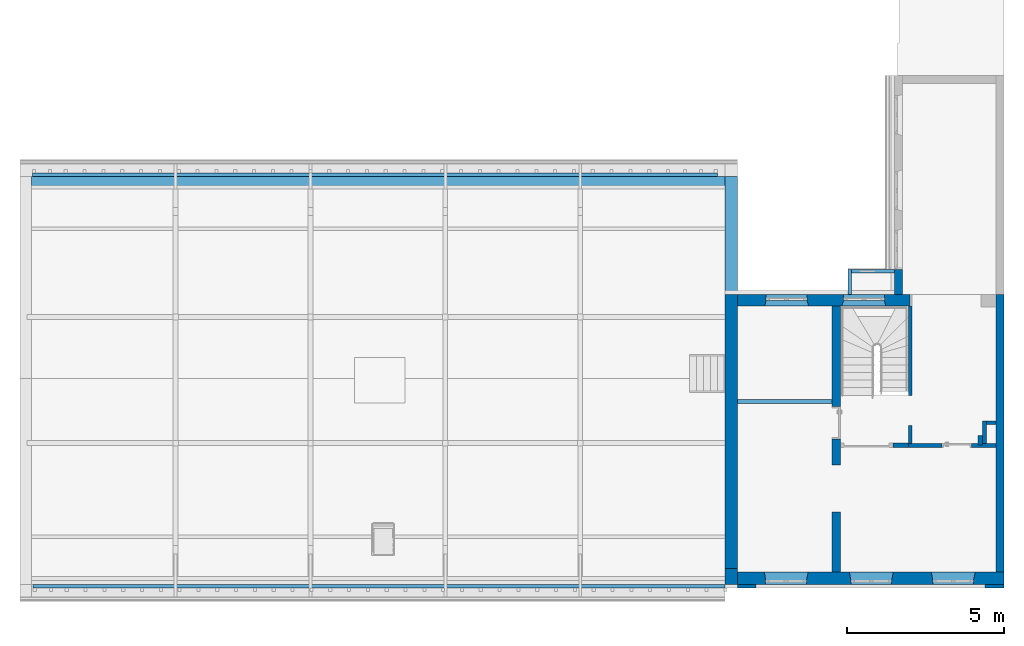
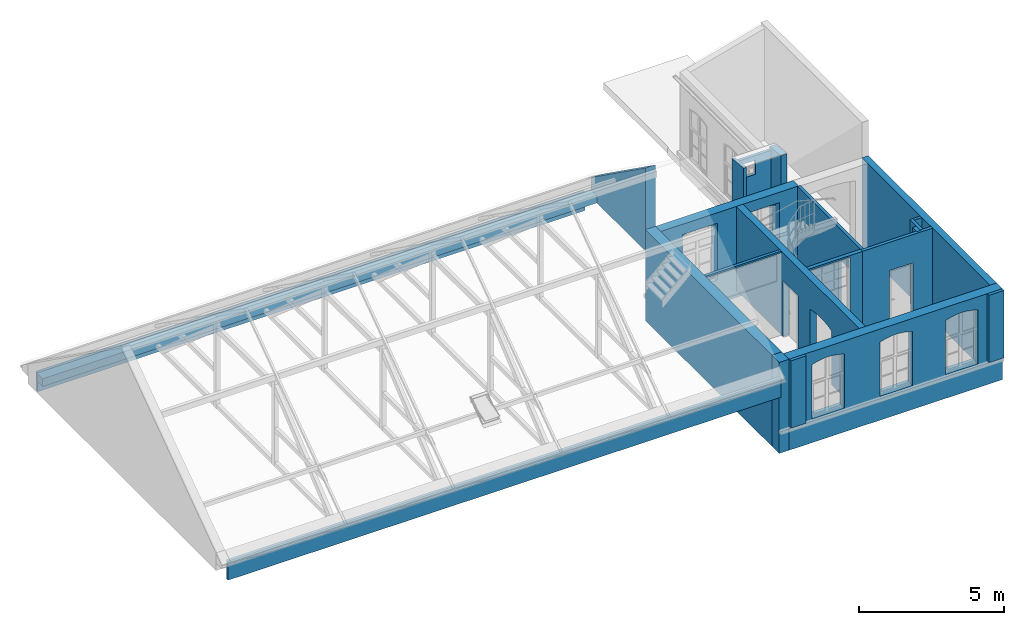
"""IFC4 building model written with IfcOpenShell, lengths in metres."""

from ifc_helpers import new_model, entity, si_unit, converted_unit, derived_unit, frame, frame_2d, origin, origin_with_axes, place, context, subcontext, project, spatial, polyline, rectangle, outline, extrude, clip, halfspace, material, layer, layer_set, layer_usage, element, save


model = new_model("IFC4")

# Units and contexts
model_context = context("Model", 3, precision=1e-05, world=origin())
body_context = subcontext(model_context, "Body", "Model", "MODEL_VIEW")
ifc_project = project(units=[si_unit("LENGTHUNIT", "METRE"), si_unit("AREAUNIT", "SQUARE_METRE"), si_unit("VOLUMEUNIT", "CUBIC_METRE"), si_unit("MASSUNIT", "GRAM", prefix="KILO"), converted_unit("PLANEANGLEUNIT", "DEGREE", entity("IfcPlaneAngleMeasure", 0.0174532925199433), si_unit("PLANEANGLEUNIT", "RADIAN"), dimensions=[0, 0, 0, 0, 0, 0, 0]), derived_unit("THERMALTRANSMITTANCEUNIT", [(si_unit("POWERUNIT", "WATT"), 1), (si_unit("THERMODYNAMICTEMPERATUREUNIT", "KELVIN"), -1), (si_unit("LENGTHUNIT", "METRE"), -2)]), derived_unit("VOLUMETRICFLOWRATEUNIT", [(si_unit("LENGTHUNIT", "METRE"), 3), (converted_unit("TIMEUNIT", "hour", entity("IfcTimeMeasure", 3600.0), si_unit("TIMEUNIT", "SECOND"), dimensions=[0, 0, 1, 0, 0, 0, 0]), -1), (si_unit("LENGTHUNIT", "METRE"), -1)])], contexts=[model_context])

# Building, storeys
building_placement = place(None, origin())
building = spatial("IfcBuilding", under=ifc_project, at=building_placement, Name="Bestandsgebäude A - Sporthalle / Wohnhaus (TB 100-499)   ANPASSEN !!!", CompositionType="ELEMENT")
storey_1_placement = place(building_placement, frame((0.0, 0.0, 3.87)))
storey_1 = spatial("IfcBuildingStorey", under=building, at=storey_1_placement, Name="Geb. A 1. Obergeschoss (TB 250-299)", CompositionType="ELEMENT", Elevation=3.87)
storey_2_placement = place(storey_1_placement, frame((0.0, 0.0, 3.87)))
storey_2 = spatial("IfcBuildingStorey", under=storey_1, at=storey_2_placement, Name="Architektur (TB 250-259)", CompositionType="PARTIAL")

# Walls
ifc_material_1 = material(Name="concrete")
ifc_layer_1 = layer(ifc_material_1, 0.4)
ifc_layer_set_1 = layer_set([ifc_layer_1])
ifc_layer_usage_1 = layer_usage(ifc_layer_set_1, "AXIS2", "POSITIVE", 0.0)
wall_1_placement = place(storey_2_placement, frame((-8.9, 13.0, -1.34), z_axis=(0.0, 0.0, 1.0), x_axis=(-1.0, 2.46809959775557e-16, 0.0)))
element("IfcWall", 1, at=wall_1_placement, inside=storey_2, material=ifc_layer_usage_1, Name="reinforced - bearing", PredefinedType="USERDEFINED", context=body_context, shape_type="SweptSolid", body=[
    extrude(rectangle(XDim=22.11, YDim=0.4, at=frame_2d((11.055, 0.2), x_axis=(1.0, 0.0))), origin_with_axes(), (0.0, 0.0, 1.0), 0.32),
])
ifc_material_2 = material(Name="concrete")
ifc_layer_2 = layer(ifc_material_2, 0.4)
ifc_layer_set_2 = layer_set([ifc_layer_2])
ifc_layer_usage_2 = layer_usage(ifc_layer_set_2, "AXIS2", "POSITIVE", 0.0)
wall_2_placement = place(storey_2_placement, frame((-8.5, 9.25, -1.34), z_axis=(0.0, 0.0, 1.0), x_axis=(0.0, 1.0, 0.0)))
element("IfcWall", 2, at=wall_2_placement, inside=storey_2, material=ifc_layer_usage_2, Name="reinforced - bearing", PredefinedType="USERDEFINED", context=body_context, shape_type="Clipping", body=[
    clip(extrude(rectangle(XDim=3.75, YDim=0.4, at=frame_2d((1.875, 0.2), x_axis=(1.0, 0.0))), origin_with_axes(), (0.0, 0.0, 1.0), 3.50058618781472), halfspace(frame((1.875, 0.2, 2.16513569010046), z_axis=(-0.580134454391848, -4.19008653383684e-08, -0.814520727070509), x_axis=(0.0, -0.999999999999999, 5.14423572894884e-08)), True)),
])

# Wall, opening
ifc_material_3 = material(Name="masonry")
ifc_layer_3 = layer(ifc_material_3, 0.12)
ifc_layer_set_3 = layer_set([ifc_layer_3])
ifc_layer_usage_3 = layer_usage(ifc_layer_set_3, "AXIS2", "POSITIVE", 0.0)
wall_3_placement = place(storey_2_placement, frame((-5.48, 5.89, -3.97), z_axis=(0.0, 0.0, 1.0), x_axis=(-1.0, 0.0, 0.0)))
wall_3 = element("IfcWall", 3, at=wall_3_placement, inside=storey_2, material=ifc_layer_usage_3, Name="masonry load-bearing", PredefinedType="USERDEFINED", context=body_context, shape_type="SweptSolid", body=[
    extrude(rectangle(XDim=3.02, YDim=0.12, at=frame_2d((1.51, 0.06), x_axis=(1.0, 0.0))), origin_with_axes(), (0.0, 0.0, 1.0), 3.54),
])
opening_1_placement = place(wall_3_placement, frame((0.0, 0.0, 0.0), z_axis=(0.0, 1.0, 0.0), x_axis=(0.0, 0.0, 1.0)))
element("IfcOpeningElement", 4, at=opening_1_placement, cuts=wall_3, Name="Door opening", PredefinedType="OPENING", context=body_context, shape_type="SweptSolid", body=[
    extrude(outline(polyline([(3.47, 3.02), (3.47, 0.0), (0.0, 0.0), (0.0, 3.02), (3.47, 3.02)])), origin_with_axes(), (0.0, 0.0, 1.0), 0.12),
])

# Walls
ifc_material_4 = material(Name="masonry")
ifc_layer_4 = layer(ifc_material_4, 0.15)
ifc_layer_set_4 = layer_set([ifc_layer_4])
ifc_layer_usage_4 = layer_usage(ifc_layer_set_4, "AXIS2", "POSITIVE", 0.0)
wall_4_placement = place(storey_2_placement, frame((-0.68000000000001, 4.45000000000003, -3.97), z_axis=(0.0, 0.0, 1.0), x_axis=(8.1854523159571e-14, 1.0, 0.0)))
element("IfcWall", 5, at=wall_4_placement, inside=storey_2, material=ifc_layer_usage_4, Name="masonry load-bearing", PredefinedType="USERDEFINED", context=body_context, shape_type="SweptSolid", body=[
    extrude(rectangle(XDim=0.299999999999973, YDim=0.15, at=frame_2d((0.149999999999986, 0.075), x_axis=(1.0, 0.0))), origin_with_axes(), (0.0, 0.0, 1.0), 3.54),
])
ifc_material_5 = material(Name="masonry")
ifc_layer_5 = layer(ifc_material_5, 0.12)
ifc_layer_set_5 = layer_set([ifc_layer_5])
ifc_layer_usage_5 = layer_usage(ifc_layer_set_5, "AXIS2", "POSITIVE", 0.0)
wall_5_placement = place(storey_2_placement, frame((-0.680000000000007, 5.21, -3.97), z_axis=(0.0, 0.0, 1.0), x_axis=(-1.57898385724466e-16, -1.0, 0.0)))
element("IfcWall", 6, at=wall_5_placement, inside=storey_2, material=ifc_layer_usage_5, Name="masonry load-bearing", PredefinedType="USERDEFINED", context=body_context, shape_type="SweptSolid", body=[
    extrude(rectangle(XDim=0.720000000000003, YDim=0.12, at=frame_2d((0.360000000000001, 0.06), x_axis=(1.0, 0.0))), origin_with_axes(), (0.0, 0.0, 1.0), 3.54),
])
ifc_material_6 = material(Name="masonry")
ifc_layer_6 = layer(ifc_material_6, 0.12)
ifc_layer_set_6 = layer_set([ifc_layer_6])
ifc_layer_usage_6 = layer_usage(ifc_layer_set_6, "AXIS2", "POSITIVE", 0.0)
wall_6_placement = place(storey_2_placement, frame((-0.260000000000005, 5.21, -3.97), z_axis=(0.0, 0.0, 1.0), x_axis=(-1.0, 0.0, 0.0)))
element("IfcWall", 7, at=wall_6_placement, inside=storey_2, material=ifc_layer_usage_6, Name="masonry load-bearing", PredefinedType="USERDEFINED", context=body_context, shape_type="SweptSolid", body=[
    extrude(rectangle(XDim=0.300000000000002, YDim=0.12, at=frame_2d((0.150000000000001, 0.06), x_axis=(1.0, 0.0))), origin_with_axes(), (0.0, 0.0, 1.0), 3.54),
])

# Wall, openings
ifc_material_7 = material(Name="masonry")
ifc_layer_7 = layer(ifc_material_7, 0.26)
ifc_layer_set_7 = layer_set([ifc_layer_7])
ifc_layer_usage_7 = layer_usage(ifc_layer_set_7, "AXIS2", "POSITIVE", 0.0)
wall_7_placement = place(storey_2_placement, frame((-5.48, 8.88, -3.97), z_axis=(0.0, 0.0, 1.0), x_axis=(0.0, -1.0, 0.0)))
wall_7 = element("IfcWall", 8, at=wall_7_placement, inside=storey_2, material=ifc_layer_usage_7, Name="masonry load-bearing", PredefinedType="USERDEFINED", context=body_context, shape_type="SweptSolid", body=[
    extrude(rectangle(XDim=8.49, YDim=0.26, at=frame_2d((4.245, 0.13), x_axis=(1.0, 0.0))), origin_with_axes(), (0.0, 0.0, 1.0), 3.54),
])
opening_2_placement = place(wall_7_placement, frame((3.21, 0.0, 0.0), z_axis=(0.0, 1.0, 0.0), x_axis=(0.0, 0.0, 1.0)))
element("IfcOpeningElement", 9, at=opening_2_placement, cuts=wall_7, Name="Door opening", PredefinedType="OPENING", context=body_context, shape_type="SweptSolid", body=[
    extrude(outline(polyline([(2.35, 1.04), (2.35, 0.0), (0.0, 0.0), (0.0, 1.04), (2.35, 1.04)])), origin_with_axes(), (0.0, 0.0, 1.0), 0.26),
])
opening_3_placement = place(wall_7_placement, frame((5.07, 0.0, 0.0), z_axis=(0.0, 1.0, 0.0), x_axis=(0.0, 0.0, 1.0)))
element("IfcOpeningElement", 10, at=opening_3_placement, cuts=wall_7, Name="Door opening", PredefinedType="OPENING", context=body_context, shape_type="SweptSolid", body=[
    extrude(outline(polyline([(2.28, 1.5), (2.29282303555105, 1.45106226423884), (2.30477921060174, 1.40190555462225), (2.31586479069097, 1.35254522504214), (2.32607631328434, 1.30299669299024), (2.33541058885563, 1.25327543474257), (2.34386470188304, 1.20339698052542), (2.35143601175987, 1.1533769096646), (2.35812215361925, 1.10323084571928), (2.36392103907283, 1.05297445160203), (2.36883085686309, 1.00262342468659), (2.37285007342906, 0.952193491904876), (2.37597743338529, 0.901700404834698), (2.37821195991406, 0.851159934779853), (2.37955295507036, 0.800587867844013), (2.38, 0.75), (2.37955295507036, 0.699412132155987), (2.37821195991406, 0.648840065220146), (2.3759774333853, 0.598299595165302), (2.37285007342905, 0.547806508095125), (2.36883085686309, 0.497376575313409), (2.36392103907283, 0.447025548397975), (2.35812215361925, 0.396769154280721), (2.35143601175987, 0.346623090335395), (2.34386470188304, 0.296603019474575), (2.33541058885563, 0.246724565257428), (2.32607631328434, 0.197003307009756), (2.31586479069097, 0.147454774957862), (2.30477921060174, 0.098094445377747), (2.29282303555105, 0.0489377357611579), (2.28, 0.0), (0.0, 0.0), (0.0, 1.5), (2.28, 1.5)])), origin_with_axes(), (0.0, 0.0, 1.0), 0.26),
])

# Wall, opening
ifc_material_8 = material(Name="masonry")
ifc_layer_8 = layer(ifc_material_8, 0.12)
ifc_layer_set_8 = layer_set([ifc_layer_8])
ifc_layer_usage_8 = layer_usage(ifc_layer_set_8, "AXIS2", "POSITIVE", 0.0)
wall_8_placement = place(storey_2_placement, frame((-2.92999999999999, 4.49, -3.97), z_axis=(0.0, 0.0, 1.0), x_axis=(-3.1076128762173e-15, 1.0, 0.0)))
wall_8 = element("IfcWall", 11, at=wall_8_placement, inside=storey_2, material=ifc_layer_usage_8, Name="masonry load-bearing", PredefinedType="USERDEFINED", context=body_context, shape_type="SweptSolid", body=[
    extrude(rectangle(XDim=4.39, YDim=0.12, at=frame_2d((2.195, 0.06), x_axis=(1.0, 0.0))), origin_with_axes(), (0.0, 0.0, 1.0), 3.54),
])
opening_4_placement = place(wall_8_placement, frame((1.53, 0.12, 0.0), z_axis=(-3.7895612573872e-15, -1.0, 0.0), x_axis=(0.0, 0.0, 1.0)))
element("IfcOpeningElement", 12, at=opening_4_placement, cuts=wall_8, Name="Door opening", PredefinedType="OPENING", context=body_context, shape_type="SweptSolid", body=[
    extrude(outline(polyline([(2.23, 0.95), (2.23, 0.0), (0.0, 0.0), (0.0, 0.95), (2.23, 0.95)])), origin_with_axes(), (0.0, 0.0, 1.0), 0.12),
])

ifc_material_9 = material(Name="masonry")
ifc_layer_9 = layer(ifc_material_9, 0.13)
ifc_layer_set_9 = layer_set([ifc_layer_9])
ifc_layer_usage_9 = layer_usage(ifc_layer_set_9, "AXIS2", "POSITIVE", 0.0)
wall_9_placement = place(storey_2_placement, frame((-3.04999999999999, 4.36, -3.97)))
wall_9 = element("IfcWall", 13, at=wall_9_placement, inside=storey_2, material=ifc_layer_usage_9, Name="masonry load-bearing", PredefinedType="USERDEFINED", context=body_context, shape_type="SweptSolid", body=[
    extrude(outline(polyline([(0.0, 0.0), (2.78999999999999, 0.0), (2.78999999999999, 0.13), (2.36999999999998, 0.13), (2.36999999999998, 0.0900000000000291), (2.21999999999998, 0.0900000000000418), (2.21999999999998, 0.13), (0.0, 0.13), (0.0, 0.0)])), origin_with_axes(), (0.0, 0.0, 1.0), 3.54),
])
opening_5_placement = place(wall_9_placement, frame((1.07, 0.0, 0.0), z_axis=(0.0, 1.0, 0.0), x_axis=(0.0, 0.0, 1.0)))
element("IfcOpeningElement", 14, at=opening_5_placement, cuts=wall_9, Name="Door opening", PredefinedType="OPENING", context=body_context, shape_type="SweptSolid", body=[
    extrude(outline(polyline([(2.35, 0.94), (2.35, 0.0), (0.0, 0.0), (0.0, 0.94), (2.35, 0.94)])), origin_with_axes(), (0.0, 0.0, 1.0), 0.13),
])

ifc_material_10 = material(Name="masonry")
ifc_layer_10 = layer(ifc_material_10, 0.15)
ifc_layer_set_10 = layer_set([ifc_layer_10])
ifc_layer_usage_10 = layer_usage(ifc_layer_set_10, "AXIS2", "POSITIVE", 0.0)
wall_10_placement = place(storey_2_placement, frame((-5.22, 4.36, -3.97)))
wall_10 = element("IfcWall", 15, at=wall_10_placement, inside=storey_2, material=ifc_layer_usage_10, Name="masonry load-bearing", PredefinedType="USERDEFINED", context=body_context, shape_type="SweptSolid", body=[
    extrude(rectangle(XDim=2.17000000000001, YDim=0.15, at=frame_2d((1.085, 0.075), x_axis=(1.0, 0.0))), origin_with_axes(), (0.0, 0.0, 1.0), 3.54),
])
opening_6_placement = place(wall_10_placement, frame((1.68000000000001, 0.15, 0.0), z_axis=(0.0, -1.0, 0.0), x_axis=(0.0, 0.0, 1.0)))
element("IfcOpeningElement", 16, at=opening_6_placement, cuts=wall_10, Name="Door opening", PredefinedType="OPENING", context=body_context, shape_type="SweptSolid", body=[
    extrude(outline(polyline([(3.47, 1.68000000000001), (3.47, 0.0), (0.0, 0.0), (0.0, 1.68000000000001), (3.47, 1.68000000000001)])), origin_with_axes(), (0.0, 0.0, 1.0), 0.15),
])

# Walls
ifc_material_11 = material(Name="concrete")
ifc_layer_11 = layer(ifc_material_11, 0.26)
ifc_layer_set_11 = layer_set([ifc_layer_11])
ifc_layer_usage_11 = layer_usage(ifc_layer_set_11, "AXIS2", "POSITIVE", 0.0)
wall_11_placement = place(storey_2_placement, frame((0.0, 0.389999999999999, -4.27), z_axis=(0.0, 0.0, 1.0), x_axis=(2.4492935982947e-16, 1.0, 0.0)))
element("IfcWall", 17, at=wall_11_placement, inside=storey_2, material=ifc_layer_usage_11, Name="reinforced - bearing", PredefinedType="USERDEFINED", context=body_context, shape_type="SweptSolid", body=[
    extrude(rectangle(XDim=8.86, YDim=0.26, at=frame_2d((4.43, 0.13), x_axis=(1.0, 0.0))), origin_with_axes(), (0.0, 0.0, 1.0), 3.84),
])
ifc_material_12 = material(Name="concrete")
ifc_layer_12 = layer(ifc_material_12, 0.51)
ifc_layer_set_12 = layer_set([ifc_layer_12])
ifc_layer_usage_12 = layer_usage(ifc_layer_set_12, "AXIS2", "POSITIVE", 0.0)
wall_12_placement = place(storey_2_placement, frame((-8.9, 0.0, -4.27), z_axis=(0.0, 0.0, 1.0), x_axis=(1.0, -3.67394039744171e-16, 0.0)))
element("IfcWall", 18, at=wall_12_placement, inside=storey_2, material=ifc_layer_usage_12, Name="reinforced - bearing", PredefinedType="USERDEFINED", context=body_context, shape_type="SweptSolid", body=[
    extrude(rectangle(XDim=0.399999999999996, YDim=0.51, at=frame_2d((0.199999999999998, 0.255), x_axis=(1.0, 0.0))), origin_with_axes(), (0.0, 0.0, 1.0), 3.84),
])
ifc_material_13 = material(Name="concrete")
ifc_layer_13 = layer(ifc_material_13, 0.4)
ifc_layer_set_13 = layer_set([ifc_layer_13])
ifc_layer_usage_13 = layer_usage(ifc_layer_set_13, "AXIS2", "POSITIVE", 0.0)
wall_13_placement = place(storey_2_placement, frame((-8.5, 0.509999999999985, -4.27), z_axis=(0.0, 0.0, 1.0), x_axis=(0.0, 1.0, 0.0)))
element("IfcWall", 19, at=wall_13_placement, inside=storey_2, material=ifc_layer_usage_13, Name="reinforced - bearing", PredefinedType="USERDEFINED", context=body_context, shape_type="SweptSolid", body=[
    extrude(rectangle(XDim=8.74000000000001, YDim=0.4, at=frame_2d((4.37000000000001, 0.2), x_axis=(1.0, 0.0))), origin_with_axes(), (0.0, 0.0, 1.0), 3.84),
])

# Wall, openings
ifc_material_14 = material(Name="concrete")
ifc_layer_14 = layer(ifc_material_14, 0.39)
ifc_layer_set_14 = layer_set([ifc_layer_14])
ifc_layer_usage_14 = layer_usage(ifc_layer_set_14, "AXIS2", "POSITIVE", 0.0)
wall_14_placement = place(storey_2_placement, frame((-8.5, 0.0, -4.27), z_axis=(0.0, 0.0, 1.0), x_axis=(1.0, -3.67027395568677e-16, 0.0)))
wall_14 = element("IfcWall", 20, at=wall_14_placement, inside=storey_2, material=ifc_layer_usage_14, Name="reinforced - bearing", PredefinedType="USERDEFINED", context=body_context, shape_type="SweptSolid", body=[
    extrude(rectangle(XDim=8.5, YDim=0.39, at=frame_2d((4.25, 0.195), x_axis=(1.0, 0.0))), origin_with_axes(), (0.0, 0.0, 1.0), 3.84),
])
opening_7_placement = place(wall_14_placement, frame((7.58213541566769, 0.39, 1.0), z_axis=(0.0, 0.0, 1.0), x_axis=(-1.0, 0.0, 0.0)))
element("IfcOpeningElement", 21, at=opening_7_placement, cuts=wall_14, Name="Wall Niche", ObjectType="Opening", context=body_context, shape_type="SweptSolid", body=[
    extrude(outline(polyline([(0.0, 0.0), (1.4, 0.0), (1.3549652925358, 0.25), (0.0521354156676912, 0.25), (0.0, 0.0)])), origin_with_axes(), (0.0, 0.0, 1.0), 2.4),
])
opening_8_placement = place(wall_14_placement, frame((4.97156563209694, 0.39, 1.0), z_axis=(0.0, 0.0, 1.0), x_axis=(-1.0, 0.0, 0.0)))
element("IfcOpeningElement", 22, at=opening_8_placement, cuts=wall_14, Name="Wall Niche", ObjectType="Opening", context=body_context, shape_type="SweptSolid", body=[
    extrude(outline(polyline([(0.0, 0.0), (1.4, 0.0), (1.3549652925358, 0.25), (0.0515656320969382, 0.25), (0.0, 0.0)])), origin_with_axes(), (0.0, 0.0, 1.0), 2.4),
])
opening_9_placement = place(wall_14_placement, frame((2.25788092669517, 0.39, 1.0), z_axis=(0.0, 0.0, 1.0), x_axis=(-1.0, 0.0, 0.0)))
element("IfcOpeningElement", 23, at=opening_9_placement, cuts=wall_14, Name="Wall Niche", ObjectType="Opening", context=body_context, shape_type="SweptSolid", body=[
    extrude(outline(polyline([(0.0, 0.0), (1.4, 0.0), (1.35423986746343, 0.25), (0.0542398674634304, 0.25), (0.0, 0.0)])), origin_with_axes(), (0.0, 0.0, 1.0), 2.4),
])
opening_10_placement = place(wall_14_placement, frame((0.903641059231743, 0.0, 1.0), z_axis=(-2.91504712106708e-16, 1.0, 0.0), x_axis=(0.0, 0.0, 1.0)))
element("IfcOpeningElement", 24, at=opening_10_placement, cuts=wall_14, Name="Window opening", PredefinedType="OPENING", context=body_context, shape_type="SweptSolid", body=[
    extrude(outline(polyline([(2.28, 1.3), (2.29531656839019, 1.25842115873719), (2.30961661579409, 1.21648184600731), (2.3228916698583, 1.17420690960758), (2.33513386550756, 1.1316213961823), (2.34633594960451, 1.08875053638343), (2.35649128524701, 1.04561972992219), (2.36559385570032, 1.00225453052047), (2.37363826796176, 0.958680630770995), (2.38061975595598, 0.914923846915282), (2.38653418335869, 0.871010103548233), (2.39137804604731, 0.826965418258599), (2.39514847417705, 0.782815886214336), (2.39784323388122, 0.738587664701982), (2.39946072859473, 0.694306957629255), (2.4, 0.650000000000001), (2.39946072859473, 0.605693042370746), (2.39784323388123, 0.561412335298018), (2.39514847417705, 0.517184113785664), (2.39137804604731, 0.4730345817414), (2.38653418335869, 0.428989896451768), (2.38061975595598, 0.385076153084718), (2.37363826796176, 0.341319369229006), (2.36559385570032, 0.297745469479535), (2.35649128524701, 0.254380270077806), (2.3463359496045, 0.211249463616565), (2.33513386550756, 0.1683786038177), (2.3228916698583, 0.125793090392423), (2.30961661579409, 0.0835181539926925), (2.29531656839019, 0.0415788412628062), (2.28, 0.0), (0.0, 0.0), (0.0, 1.3), (2.28, 1.3)])), origin_with_axes(), (0.0, 0.0, 1.0), 0.39),
])
opening_11_placement = place(wall_14_placement, frame((3.62, 0.0, 1.0), z_axis=(0.0, 1.0, 0.0), x_axis=(0.0, 0.0, 1.0)))
element("IfcOpeningElement", 25, at=opening_11_placement, cuts=wall_14, Name="Window opening", PredefinedType="OPENING", context=body_context, shape_type="SweptSolid", body=[
    extrude(outline(polyline([(2.28, 1.3), (2.29531656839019, 1.25842115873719), (2.30961661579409, 1.21648184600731), (2.3228916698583, 1.17420690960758), (2.33513386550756, 1.1316213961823), (2.3463359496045, 1.08875053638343), (2.35649128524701, 1.04561972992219), (2.36559385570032, 1.00225453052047), (2.37363826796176, 0.958680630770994), (2.38061975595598, 0.914923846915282), (2.38653418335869, 0.871010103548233), (2.39137804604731, 0.826965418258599), (2.39514847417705, 0.782815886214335), (2.39784323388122, 0.738587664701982), (2.39946072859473, 0.694306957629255), (2.4, 0.65), (2.39946072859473, 0.605693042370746), (2.39784323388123, 0.561412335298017), (2.39514847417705, 0.517184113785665), (2.39137804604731, 0.4730345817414), (2.38653418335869, 0.428989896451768), (2.38061975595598, 0.385076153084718), (2.37363826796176, 0.341319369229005), (2.36559385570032, 0.297745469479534), (2.35649128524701, 0.254380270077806), (2.3463359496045, 0.211249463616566), (2.33513386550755, 0.1683786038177), (2.3228916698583, 0.125793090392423), (2.30961661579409, 0.0835181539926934), (2.29531656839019, 0.0415788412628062), (2.28, 0.0), (0.0, 0.0), (0.0, 1.3), (2.28, 1.3)])), origin_with_axes(), (0.0, 0.0, 1.0), 0.39),
])
opening_12_placement = place(wall_14_placement, frame((6.23, 0.0, 1.0), z_axis=(0.0, 1.0, 0.0), x_axis=(0.0, 0.0, 1.0)))
element("IfcOpeningElement", 26, at=opening_12_placement, cuts=wall_14, Name="Window opening", PredefinedType="OPENING", context=body_context, shape_type="SweptSolid", body=[
    extrude(outline(polyline([(2.28, 1.3), (2.29531656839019, 1.25842115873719), (2.30961661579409, 1.21648184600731), (2.3228916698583, 1.17420690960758), (2.33513386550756, 1.1316213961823), (2.3463359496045, 1.08875053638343), (2.35649128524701, 1.04561972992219), (2.36559385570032, 1.00225453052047), (2.37363826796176, 0.958680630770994), (2.38061975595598, 0.914923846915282), (2.38653418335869, 0.871010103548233), (2.39137804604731, 0.826965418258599), (2.39514847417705, 0.782815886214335), (2.39784323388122, 0.738587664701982), (2.39946072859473, 0.694306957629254), (2.4, 0.65), (2.39946072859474, 0.605693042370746), (2.39784323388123, 0.561412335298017), (2.39514847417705, 0.517184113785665), (2.39137804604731, 0.4730345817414), (2.38653418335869, 0.428989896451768), (2.38061975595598, 0.385076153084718), (2.37363826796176, 0.341319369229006), (2.36559385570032, 0.297745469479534), (2.35649128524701, 0.254380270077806), (2.3463359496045, 0.211249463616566), (2.33513386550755, 0.168378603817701), (2.3228916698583, 0.125793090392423), (2.30961661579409, 0.083518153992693), (2.29531656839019, 0.0415788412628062), (2.28, 0.0), (0.0, 0.0), (0.0, 1.3), (2.28, 1.3)])), origin_with_axes(), (0.0, 0.0, 1.0), 0.39),
])

# Wall
ifc_material_15 = material(Name="concrete")
ifc_layer_15 = layer(ifc_material_15, 0.12)
ifc_layer_set_15 = layer_set([ifc_layer_15])
ifc_layer_usage_15 = layer_usage(ifc_layer_set_15, "AXIS2", "POSITIVE", 0.0)
wall_15_placement = place(storey_2_placement, frame((0.0, 0.0, -3.27), z_axis=(0.0, 0.0, 1.0), x_axis=(-1.0, 0.0, 0.0)))
element("IfcWall", 27, at=wall_15_placement, inside=storey_2, material=ifc_layer_usage_15, Name="reinforced - bearing", PredefinedType="USERDEFINED", context=body_context, shape_type="SweptSolid", body=[
    extrude(rectangle(XDim=0.6, YDim=0.12, at=frame_2d((0.3, 0.06), x_axis=(1.0, 0.0))), origin_with_axes(), (0.0, 0.0, 1.0), 2.84),
])

# Wall, opening
ifc_material_16 = material(Name="concrete")
ifc_layer_16 = layer(ifc_material_16, 0.12)
ifc_layer_set_16 = layer_set([ifc_layer_16])
ifc_layer_usage_16 = layer_usage(ifc_layer_set_16, "AXIS2", "POSITIVE", 0.0)
wall_16_placement = place(storey_2_placement, frame((-3.49000000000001, 10.04, -1.7), z_axis=(0.0, 0.0, 1.0), x_axis=(-1.0, 0.0, 0.0)))
wall_16 = element("IfcWall", 28, at=wall_16_placement, inside=storey_2, material=ifc_layer_usage_16, Name="reinforced - bearing", PredefinedType="USERDEFINED", context=body_context, shape_type="SweptSolid", body=[
    extrude(rectangle(XDim=1.37, YDim=0.12, at=frame_2d((0.684999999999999, 0.06), x_axis=(1.0, 0.0))), origin_with_axes(), (0.0, 0.0, 1.0), 2.31),
])
opening_13_placement = place(wall_16_placement, frame((0.620717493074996, 0.0, 1.52), z_axis=(0.0, 1.0, 0.0), x_axis=(0.0, 0.0, 1.0)))
element("IfcOpeningElement", 29, at=opening_13_placement, cuts=wall_16, Name="Window opening", PredefinedType="OPENING", context=body_context, shape_type="SweptSolid", body=[
    extrude(outline(polyline([(0.600000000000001, 0.5), (0.600000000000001, 0.0), (0.0, 0.0), (0.0, 0.5), (0.600000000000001, 0.5)])), origin_with_axes(), (0.0, 0.0, 1.0), 0.12),
])

# Walls
ifc_material_17 = material(Name="concrete")
ifc_layer_17 = layer(ifc_material_17, 0.12)
ifc_layer_set_17 = layer_set([ifc_layer_17])
ifc_layer_usage_17 = layer_usage(ifc_layer_set_17, "AXIS2", "POSITIVE", 0.0)
wall_17_placement = place(storey_2_placement, frame((-7.89999999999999, 0.0, -3.27), z_axis=(0.0, 0.0, 1.0), x_axis=(-1.0, 0.0, 0.0)))
element("IfcWall", 30, at=wall_17_placement, inside=storey_2, material=ifc_layer_usage_17, Name="reinforced - bearing", PredefinedType="USERDEFINED", context=body_context, shape_type="SweptSolid", body=[
    extrude(rectangle(XDim=0.599999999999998, YDim=0.12, at=frame_2d((0.299999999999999, 0.06), x_axis=(1.0, 0.0))), origin_with_axes(), (0.0, 0.0, 1.0), 2.84),
])
ifc_material_18 = material(Name="concrete")
ifc_layer_18 = layer(ifc_material_18, 0.12)
ifc_layer_set_18 = layer_set([ifc_layer_18])
ifc_layer_usage_18 = layer_usage(ifc_layer_set_18, "AXIS2", "POSITIVE", 0.0)
wall_18_placement = place(storey_2_placement, frame((-30.98, 13.0, -1.82), z_axis=(0.0, 0.0, 1.0), x_axis=(1.0, -7.49583545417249e-16, 0.0)))
element("IfcWall", 31, at=wall_18_placement, inside=storey_2, material=ifc_layer_usage_18, Name="reinforced - bearing", PredefinedType="USERDEFINED", context=body_context, shape_type="SweptSolid", body=[
    extrude(rectangle(XDim=21.84, YDim=0.12, at=frame_2d((10.92, 0.06), x_axis=(1.0, 0.0))), origin_with_axes(), (0.0, 0.0, 1.0), 0.800000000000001),
])
ifc_material_19 = material(Name="concrete")
ifc_layer_19 = layer(ifc_material_19, 0.12)
ifc_layer_set_19 = layer_set([ifc_layer_19])
ifc_layer_usage_19 = layer_usage(ifc_layer_set_19, "AXIS2", "POSITIVE", 0.0)
wall_19_placement = place(storey_2_placement, frame((-8.90000000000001, 0.0, -1.82), z_axis=(0.0, 0.0, 1.0), x_axis=(-1.0, 4.89858719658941e-16, 0.0)))
element("IfcWall", 32, at=wall_19_placement, inside=storey_2, material=ifc_layer_usage_19, Name="reinforced - bearing", PredefinedType="USERDEFINED", context=body_context, shape_type="SweptSolid", body=[
    extrude(rectangle(XDim=22.05, YDim=0.12, at=frame_2d((11.025, 0.06), x_axis=(1.0, 0.0))), origin_with_axes(), (0.0, 0.0, 1.0), 0.800000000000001),
])
ifc_material_20 = material(Name="concrete")
ifc_layer_20 = layer(ifc_material_20, 0.12)
ifc_layer_set_20 = layer_set([ifc_layer_20])
ifc_layer_usage_20 = layer_usage(ifc_layer_set_20, "AXIS2", "POSITIVE", 0.0)
wall_20_placement = place(storey_2_placement, frame((-4.98, 10.04, -1.7), z_axis=(0.0, 0.0, 1.0), x_axis=(0.0, -1.0, 0.0)))
element("IfcWall", 33, at=wall_20_placement, inside=storey_2, material=ifc_layer_usage_20, Name="reinforced - bearing", PredefinedType="USERDEFINED", context=body_context, shape_type="Clipping", body=[
    clip(extrude(rectangle(XDim=0.789999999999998, YDim=0.12, at=frame_2d((0.394999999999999, 0.06), x_axis=(1.0, 0.0))), origin_with_axes(), (0.0, 0.0, 1.0), 2.48538985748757), halfspace(frame((0.394999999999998, 0.06, 2.44951155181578), z_axis=(0.0904587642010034, -7.53849514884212e-15, -0.995900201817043), x_axis=(0.995900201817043, 0.0, 0.0904587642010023)), True)),
])
ifc_material_21 = material(Name="concrete")
ifc_layer_21 = layer(ifc_material_21, 0.25)
ifc_layer_set_21 = layer_set([ifc_layer_21])
ifc_layer_usage_21 = layer_usage(ifc_layer_set_21, "AXIS2", "POSITIVE", 0.0)
wall_21_placement = place(storey_2_placement, frame((-3.24000000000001, 9.25, -3.77), z_axis=(0.0, 0.0, 1.0), x_axis=(0.0, 1.0, 0.0)))
element("IfcWall", 34, at=wall_21_placement, inside=storey_2, material=ifc_layer_usage_21, Name="reinforced - bearing", PredefinedType="USERDEFINED", context=body_context, shape_type="Clipping", body=[
    clip(extrude(rectangle(XDim=0.789999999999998, YDim=0.25, at=frame_2d((0.394999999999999, 0.125), x_axis=(1.0, 0.0))), origin_with_axes(), (0.0, 0.0, 1.0), 4.55538985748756), halfspace(frame((0.395, 0.125, 4.51951155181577), z_axis=(-0.0904587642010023, 7.24612765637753e-15, -0.995900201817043), x_axis=(0.995900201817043, 0.0, -0.0904587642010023)), True)),
])

# Wall, openings
ifc_material_22 = material(Name="concrete")
ifc_layer_22 = layer(ifc_material_22, 0.37)
ifc_layer_set_22 = layer_set([ifc_layer_22])
ifc_layer_usage_22 = layer_usage(ifc_layer_set_22, "AXIS2", "POSITIVE", 0.0)
wall_22_placement = place(storey_2_placement, frame((-2.99, 9.25, -4.27), z_axis=(0.0, 0.0, 1.0), x_axis=(-1.0, 0.0, 0.0)))
wall_22 = element("IfcWall", 35, at=wall_22_placement, inside=storey_2, material=ifc_layer_usage_22, Name="reinforced - bearing", PredefinedType="USERDEFINED", context=body_context, shape_type="SweptSolid", body=[
    extrude(rectangle(XDim=5.51, YDim=0.37, at=frame_2d((2.755, 0.185), x_axis=(1.0, 0.0))), origin_with_axes(), (0.0, 0.0, 1.0), 3.84),
])
opening_14_placement = place(wall_22_placement, frame((0.82707106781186, 0.0, 1.06), z_axis=(0.0, 1.0, 0.0), x_axis=(0.0, 0.0, 1.0)))
element("IfcOpeningElement", 36, at=opening_14_placement, cuts=wall_22, Name="Window opening", PredefinedType="OPENING", context=body_context, shape_type="SweptSolid", body=[
    extrude(outline(polyline([(2.13, 1.3), (2.14531656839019, 1.25842115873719), (2.15961661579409, 1.21648184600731), (2.1728916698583, 1.17420690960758), (2.18513386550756, 1.1316213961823), (2.19633594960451, 1.08875053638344), (2.20649128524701, 1.04561972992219), (2.21559385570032, 1.00225453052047), (2.22363826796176, 0.958680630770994), (2.23061975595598, 0.914923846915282), (2.23653418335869, 0.871010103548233), (2.24137804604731, 0.8269654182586), (2.24514847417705, 0.782815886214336), (2.24784323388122, 0.738587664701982), (2.24946072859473, 0.694306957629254), (2.25, 0.65), (2.24946072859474, 0.605693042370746), (2.24784323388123, 0.561412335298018), (2.24514847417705, 0.517184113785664), (2.24137804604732, 0.473034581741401), (2.2365341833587, 0.428989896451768), (2.23061975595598, 0.385076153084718), (2.22363826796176, 0.341319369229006), (2.21559385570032, 0.297745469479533), (2.20649128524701, 0.254380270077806), (2.1963359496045, 0.211249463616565), (2.18513386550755, 0.168378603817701), (2.1728916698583, 0.125793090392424), (2.15961661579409, 0.0835181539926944), (2.14531656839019, 0.0415788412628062), (2.13, 0.0), (0.0, 0.0), (0.0, 1.3), (2.13, 1.3)])), origin_with_axes(), (0.0, 0.0, 1.0), 0.37),
])
opening_15_placement = place(wall_22_placement, frame((2.17814473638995, 0.37, 1.0), z_axis=(0.0, 0.0, 1.0), x_axis=(-1.0, 0.0, 0.0)))
element("IfcOpeningElement", 37, at=opening_15_placement, cuts=wall_22, Name="Wall Niche", ObjectType="Opening", context=body_context, shape_type="SweptSolid", body=[
    extrude(outline(polyline([(0.0, 0.0), (1.40142755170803, 0.0), (1.35107366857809, 0.17), (0.0510736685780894, 0.17), (0.0, 0.0)])), origin_with_axes(), (0.0, 0.0, 1.0), 2.4),
])
opening_16_placement = place(wall_22_placement, frame((4.64107366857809, 0.37, 1.0), z_axis=(0.0, 0.0, 1.0), x_axis=(-1.0, 0.0, 0.0)))
element("IfcOpeningElement", 38, at=opening_16_placement, cuts=wall_22, Name="Wall Niche", ObjectType="Opening", context=body_context, shape_type="SweptSolid", body=[
    extrude(outline(polyline([(0.0, 0.0), (1.40142755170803, 0.0), (1.35107366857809, 0.17), (0.0510736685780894, 0.17), (0.0, 0.0)])), origin_with_axes(), (0.0, 0.0, 1.0), 2.4),
])
opening_17_placement = place(wall_22_placement, frame((3.29, 0.0, 1.06), z_axis=(0.0, 1.0, 0.0), x_axis=(0.0, 0.0, 1.0)))
element("IfcOpeningElement", 39, at=opening_17_placement, cuts=wall_22, Name="Window opening", PredefinedType="OPENING", context=body_context, shape_type="SweptSolid", body=[
    extrude(outline(polyline([(2.13, 1.3), (2.14531656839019, 1.25842115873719), (2.15961661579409, 1.21648184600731), (2.1728916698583, 1.17420690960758), (2.18513386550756, 1.1316213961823), (2.1963359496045, 1.08875053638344), (2.20649128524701, 1.04561972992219), (2.21559385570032, 1.00225453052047), (2.22363826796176, 0.958680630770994), (2.23061975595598, 0.914923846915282), (2.23653418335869, 0.871010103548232), (2.24137804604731, 0.8269654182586), (2.24514847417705, 0.782815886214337), (2.24784323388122, 0.738587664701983), (2.24946072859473, 0.694306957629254), (2.25, 0.65), (2.24946072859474, 0.605693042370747), (2.24784323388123, 0.561412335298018), (2.24514847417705, 0.517184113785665), (2.24137804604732, 0.473034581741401), (2.2365341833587, 0.428989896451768), (2.23061975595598, 0.385076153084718), (2.22363826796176, 0.341319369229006), (2.21559385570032, 0.297745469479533), (2.20649128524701, 0.254380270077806), (2.1963359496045, 0.211249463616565), (2.18513386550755, 0.1683786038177), (2.1728916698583, 0.125793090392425), (2.15961661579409, 0.0835181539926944), (2.14531656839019, 0.0415788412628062), (2.13, 0.0), (0.0, 0.0), (0.0, 1.3), (2.13, 1.3)])), origin_with_axes(), (0.0, 0.0, 1.0), 0.37),
])

save(model, "model.ifc")
